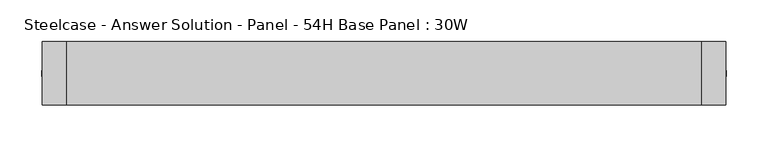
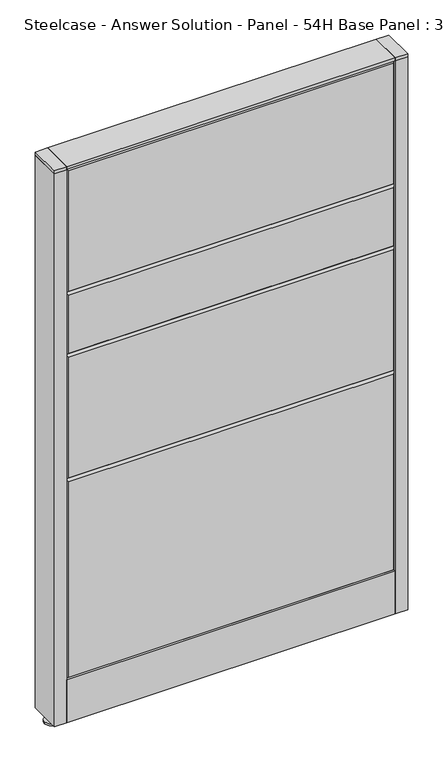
"""IFC4 building model written with IfcOpenShell, lengths in millimetres: furniture geometry, Steelcase - Answer Solution - Panel - 54H Base Panel : 30W."""

from ifc_helpers import new_model, si_unit, point, frame, frame_2d, origin, place, context, project, spatial, polyline, circle_curve, trimmed, segment, composite_curve, outline, extrude, faceted_brep, source, transform, mapped, element, save


def steelcase_answer_solution_panel_54h_base_panel_30w_eed6b7e5(model_context):
    return source(origin(), model_context, "Body", "SolidModel", [
        extrude(outline(composite_curve([segment(trimmed(circle_curve(frame_2d((395.224, 0.0320214)), 5.08), [point((400.304, 0.0320214))], [point((390.144, 0.0320214))], False, "CARTESIAN"), True, "CONTINUOUS"), segment(trimmed(circle_curve(frame_2d((395.224, 0.0320214)), 5.08), [point((390.144, 0.0320214))], [point((400.304, 0.0320214))], False, "CARTESIAN"), True, "CONTINUOUS")], self_intersect=False)), frame((0.0, 0.0, 5.0799671), z_axis=(0.0, 0.0, 1.0), x_axis=(1.0, 0.0, 0.0)), (0.0, 0.0, 1.0), 10.414),
        extrude(outline(composite_curve([segment(trimmed(circle_curve(frame_2d((395.224, 0.0320214)), 15.24), [point((410.464, 0.0320214))], [point((379.984, 0.0320214))], False, "CARTESIAN"), True, "CONTINUOUS"), segment(trimmed(circle_curve(frame_2d((395.224, 0.0320214)), 15.24), [point((379.984, 0.0320214))], [point((410.464, 0.0320214))], False, "CARTESIAN"), True, "CONTINUOUS")], self_intersect=False)), frame((0.0, 0.0, -3.29e-05), z_axis=(0.0, 0.0, 1.0), x_axis=(1.0, 0.0, 0.0)), (0.0, 0.0, 1.0), 5.08),
        extrude(outline(polyline([(409.575, 38.1320408), (409.575, -38.0679592), (381.0, -38.0679592), (381.0, 38.1320408), (409.575, 38.1320408)])), frame((0.0, 0.0, 1370.6348), z_axis=(0.0, 0.0, 1.0), x_axis=(1.0, 0.0, 0.0)), (0.0, 0.0, 1.0), 7.3151671),
        extrude(outline(polyline([(409.575, 38.1320408), (409.575, -38.0679592), (381.0, -38.0679592), (381.0, 38.1320408), (409.575, 38.1320408)])), frame((0.0, 0.0, 15.4939671), z_axis=(0.0, 0.0, 1.0), x_axis=(1.0, 0.0, 0.0)), (0.0, 0.0, 1.0), 1355.1408329),
        extrude(outline(composite_curve([segment(trimmed(circle_curve(frame_2d((-395.224, 0.0320214)), 5.08), [point((-400.304, 0.0320214))], [point((-390.144, 0.0320214))], False, "CARTESIAN"), True, "CONTINUOUS"), segment(trimmed(circle_curve(frame_2d((-395.224, 0.0320214)), 5.08), [point((-390.144, 0.0320214))], [point((-400.304, 0.0320214))], False, "CARTESIAN"), True, "CONTINUOUS")], self_intersect=False)), frame((0.0, 0.0, 5.0799671), z_axis=(0.0, 0.0, 1.0), x_axis=(1.0, 0.0, 0.0)), (0.0, 0.0, 1.0), 10.414),
        extrude(outline(composite_curve([segment(trimmed(circle_curve(frame_2d((-395.224, 0.0320214)), 15.24), [point((-410.464, 0.0320214))], [point((-379.984, 0.0320214))], False, "CARTESIAN"), True, "CONTINUOUS"), segment(trimmed(circle_curve(frame_2d((-395.224, 0.0320214)), 15.24), [point((-379.984, 0.0320214))], [point((-410.464, 0.0320214))], False, "CARTESIAN"), True, "CONTINUOUS")], self_intersect=False)), frame((0.0, 0.0, -3.29e-05), z_axis=(0.0, 0.0, 1.0), x_axis=(1.0, 0.0, 0.0)), (0.0, 0.0, 1.0), 5.08),
        extrude(outline(polyline([(-409.575, 38.1320408), (-381.0, 38.1320408), (-381.0, -38.0679592), (-409.575, -38.0679592), (-409.575, 38.1320408)])), frame((0.0, 0.0, 1370.6348), z_axis=(0.0, 0.0, 1.0), x_axis=(1.0, 0.0, 0.0)), (0.0, 0.0, 1.0), 7.3151671),
        extrude(outline(polyline([(-409.575, 38.1320408), (-381.0, 38.1320408), (-381.0, -38.0679592), (-409.575, -38.0679592), (-409.575, 38.1320408)])), frame((0.0, 0.0, 15.4939671), z_axis=(0.0, 0.0, 1.0), x_axis=(1.0, 0.0, 0.0)), (0.0, 0.0, 1.0), 1355.1408329),
        faceted_brep([(-376.174, 38.1635011, 1366.774), (376.174, 38.1635011, 1366.774), (376.174, 38.1635011, 1071.626), (-376.174, 38.1635011, 1071.626), (-381.0, 33.3375011, 1371.6), (-381.0, 33.3375011, 1066.8), (381.0, 33.3375011, 1066.8), (381.0, 33.3375011, 1371.6)], [[[0, 1, 2, 3]], [[4, 5, 6, 7]], [[4, 7, 1, 0]], [[7, 6, 2, 1]], [[6, 5, 3, 2]], [[5, 4, 0, 3]]]),
        faceted_brep([(-376.174, 38.1635011, 1061.974), (376.174, 38.1635011, 1061.974), (376.174, 38.1635011, 919.226), (-376.174, 38.1635011, 919.226), (-381.0, 33.3375011, 1066.8), (-381.0, 33.3375011, 914.4), (381.0, 33.3375011, 914.4), (381.0, 33.3375011, 1066.8)], [[[0, 1, 2, 3]], [[4, 5, 6, 7]], [[4, 7, 1, 0]], [[7, 6, 2, 1]], [[6, 5, 3, 2]], [[5, 4, 0, 3]]]),
        faceted_brep([(-376.174, 38.1635011, 909.574), (376.174, 38.1635011, 909.574), (376.174, 38.1635011, 614.426), (-376.174, 38.1635011, 614.426), (-381.0, 33.3375011, 914.4), (-381.0, 33.3375011, 609.6), (381.0, 33.3375011, 609.6), (381.0, 33.3375011, 914.4)], [[[0, 1, 2, 3]], [[4, 5, 6, 7]], [[4, 7, 1, 0]], [[7, 6, 2, 1]], [[6, 5, 3, 2]], [[5, 4, 0, 3]]]),
        faceted_brep([(-376.174, 38.1635011, 604.774), (376.174, 38.1635011, 604.774), (376.174, 38.1635011, 125.476), (-376.174, 38.1635011, 125.476), (-381.0, 33.3375011, 609.6), (-381.0, 33.3375011, 120.65), (381.0, 33.3375011, 120.65), (381.0, 33.3375011, 609.6)], [[[0, 1, 2, 3]], [[4, 5, 6, 7]], [[4, 7, 1, 0]], [[7, 6, 2, 1]], [[6, 5, 3, 2]], [[5, 4, 0, 3]]]),
        faceted_brep([(376.174, -38.1635011, 1366.774), (-376.174, -38.1635011, 1366.774), (-376.174, -38.1635011, 1071.626), (376.174, -38.1635011, 1071.626), (381.0, -33.3375011, 1371.6), (381.0, -33.3375011, 1066.8), (-381.0, -33.3375011, 1066.8), (-381.0, -33.3375011, 1371.6)], [[[0, 1, 2, 3]], [[4, 5, 6, 7]], [[4, 7, 1, 0]], [[7, 6, 2, 1]], [[6, 5, 3, 2]], [[5, 4, 0, 3]]]),
        faceted_brep([(376.174, -38.1635011, 1061.974), (-376.174, -38.1635011, 1061.974), (-376.174, -38.1635011, 919.226), (376.174, -38.1635011, 919.226), (381.0, -33.3375011, 1066.8), (381.0, -33.3375011, 914.4), (-381.0, -33.3375011, 914.4), (-381.0, -33.3375011, 1066.8)], [[[0, 1, 2, 3]], [[4, 5, 6, 7]], [[4, 7, 1, 0]], [[7, 6, 2, 1]], [[6, 5, 3, 2]], [[5, 4, 0, 3]]]),
        faceted_brep([(376.174, -38.1635011, 909.574), (-376.174, -38.1635011, 909.574), (-376.174, -38.1635011, 614.426), (376.174, -38.1635011, 614.426), (381.0, -33.3375011, 914.4), (381.0, -33.3375011, 609.6), (-381.0, -33.3375011, 609.6), (-381.0, -33.3375011, 914.4)], [[[0, 1, 2, 3]], [[4, 5, 6, 7]], [[4, 7, 1, 0]], [[7, 6, 2, 1]], [[6, 5, 3, 2]], [[5, 4, 0, 3]]]),
        faceted_brep([(376.174, -38.1635011, 604.774), (-376.174, -38.1635011, 604.774), (-376.174, -38.1635011, 125.476), (376.174, -38.1635011, 125.476), (381.0, -33.3375011, 609.6), (381.0, -33.3375011, 120.65), (-381.0, -33.3375011, 120.65), (-381.0, -33.3375011, 609.6)], [[[0, 1, 2, 3]], [[4, 5, 6, 7]], [[4, 7, 1, 0]], [[7, 6, 2, 1]], [[6, 5, 3, 2]], [[5, 4, 0, 3]]]),
        extrude(outline(polyline([(381.0, 38.1000194), (381.0, -38.1000194), (-381.0, -38.1000194), (-381.0, 38.1000194), (381.0, 38.1000194)])), frame((0.0, 0.0, 1371.6), z_axis=(0.0, 0.0, 1.0), x_axis=(1.0, 0.0, 0.0)), (0.0, 0.0, 1.0), 6.35),
        extrude(outline(polyline([(25.4000011, 119.8575157), (25.4000011, 120.65), (38.1000194, 120.65), (38.1000194, 15.494), (37.3075215, 15.494), (37.3075215, 119.8575157), (25.4000011, 119.8575157)])), frame((-381.0, 0.0, 0.0), z_axis=(1.0, 0.0, 0.0), x_axis=(0.0, 1.0, 0.0)), (0.0, 0.0, 1.0), 762.0),
        extrude(outline(polyline([(-25.4000011, 119.8575157), (-37.3075215, 119.8575157), (-37.3075215, 15.494), (-38.1000194, 15.494), (-38.1000194, 120.65), (-25.4000011, 120.65), (-25.4000011, 119.8575157)])), frame((-381.0, 0.0, 0.0), z_axis=(1.0, 0.0, 0.0), x_axis=(0.0, 1.0, 0.0)), (0.0, 0.0, 1.0), 762.0),
    ])


if __name__ == "__main__":
    model = new_model("IFC4")
    model_context = context("Model", 3, world=origin())
    ifc_project = project(units=[si_unit("LENGTHUNIT", "METRE", prefix="MILLI")], contexts=[model_context])
    site = spatial("IfcSite", under=ifc_project)
    building = spatial("IfcBuilding", under=site)
    placement = place(None, origin())
    steelcase_answer_solution_panel_54h_base_panel_30w_shape = steelcase_answer_solution_panel_54h_base_panel_30w_eed6b7e5(model_context)
    element("IfcFurniture", 1, ObjectType="Steelcase - Answer Solution - Panel - 54H Base Panel : 30W", at=placement, inside=building, context=model_context, shape_type="MappedRepresentation", body=[
        mapped(steelcase_answer_solution_panel_54h_base_panel_30w_shape, transform((0.0, 0.0, 0.0), x_axis=(1.0, 0.0, 0.0), y_axis=(0.0, 1.0, 0.0), z_axis=(0.0, 0.0, 1.0))),
    ])
    save(model, "model.ifc")
